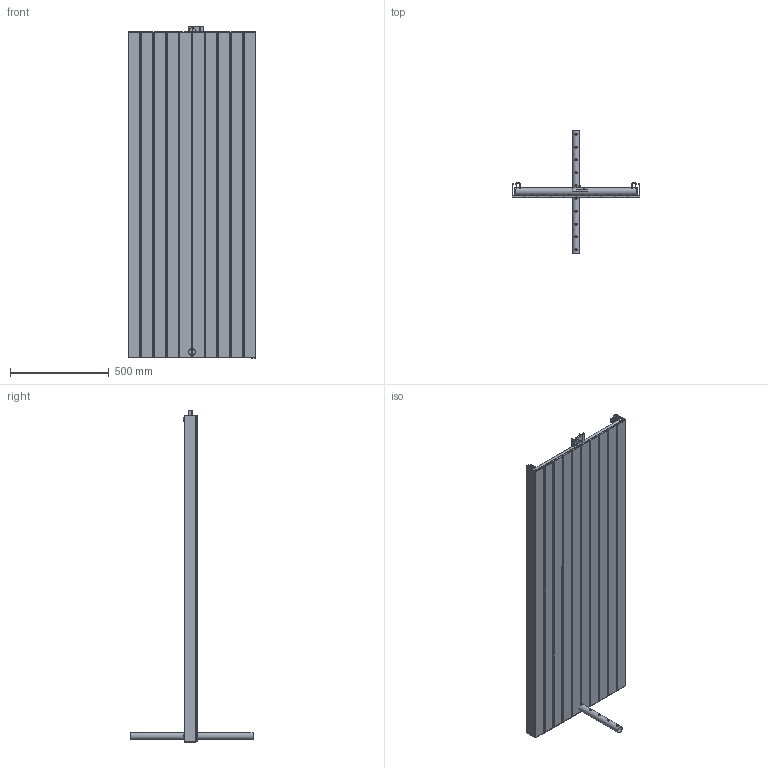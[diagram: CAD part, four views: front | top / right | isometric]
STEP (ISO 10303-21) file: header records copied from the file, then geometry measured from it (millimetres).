
FILE_DESCRIPTION( ( 'Unknown' ), '1' );
FILE_NAME( 'D:/Alplast sp. j/Witryna zespoBu - Projekty/Archiwum/Grzejniki Archiwum/Projekty/DESIGN PROGRAM/GRZEJNIK CAJA/CAJA 2.stp', 'Unknown', ( 'Unknown' ), ( 'Unknown' ), 'PSStep 10.1', 'Unknown', ' ' );
FILE_SCHEMA( ( 'AUTOMOTIVE_DESIGN { 1 0 10303 214 1 1 1 1 }' ) );
Length unit declared in the file: millimetre
Products named in the file (42): Assem1; mufka; mufka-oa0; os³ona boczna; radiator tylny; radiator tylny-oa1; radiator tylny-oa2; radiator tylny-oa3; radiator tylny-oa4; radiator tylny-oa5; radiator tylny-oa6; radiator tylny-oa7; radiator tylny-oa8; radiator tylny-oa9; radiator tylny-oa10; radiator tylny-oa11; radiator tylny-oa12; radiator tylny-oa13; radiator tylny-oa14; radiator tylny-oa15; Zaslepka fi 35; Zaslepka fi 35-oa16; Zaslepka fi 35-oa17; Zaslepka fi 35 z gwintem ; os³ona boczna z otworem; mocowanie ceownik; mocowanie ceownik-oa18; mocowanie ceownik-oa19; mocowanie ceownik-oa20; CAJA kolektor 645; CAJA kolektor 645 D-50; prêt wzmacniaj¹cy caja 2,4; rura 60x10  1650; rura 60x10  1650-oa21; rura 60x10  1650-oa22; rura 60x10  1650-oa23; rura 60x10  1650-oa24; rura 60x10  1650-oa25; rura 60x10  1650-oa26; rura 60x10  1650-oa27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
Bounding box: 645 x 621 x 1680 mm (x, y, z)
Volume: 9579280.5 mm3; surface area: 15550124.2 mm2
Topology: 82 solids, 82 shells, 1752 faces, 4332 edges, 2664 vertices
Faces by surface type: plane 888, cylinder 564, sphere 160, cone 80, extrusion 40, torus 16, bspline 4
Full cylindrical faces by diameter (mm): 6.023 x40, 8 x40, 15 x4, 18.631 x2, 19 x4, 25 x12, 32 x6, 35 x12
Entity records: 39983 total; most frequent: CARTESIAN_POINT 12800, DIRECTION 4112, ORIENTED_EDGE 3740, EDGE_CURVE 1870, AXIS2_PLACEMENT_3D 1516, VERTEX_POINT 1250, EDGE_LOOP 1126, VECTOR 1080
